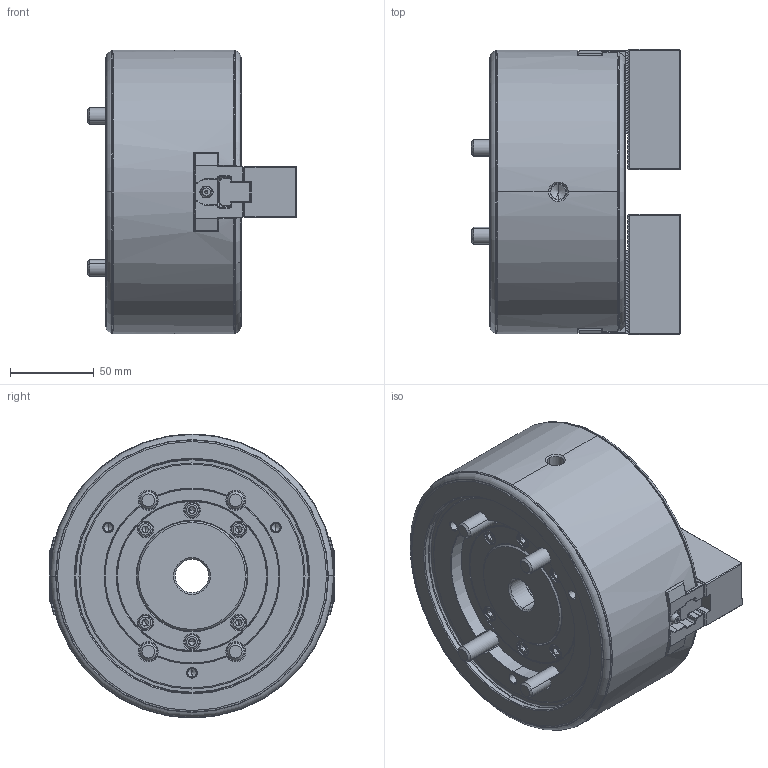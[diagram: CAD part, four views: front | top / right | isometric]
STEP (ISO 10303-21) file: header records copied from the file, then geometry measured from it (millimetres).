
FILE_DESCRIPTION (( 'STEP AP214' ), '1' );
FILE_NAME ('DEV-BRT06-HUL.STEP', '2024-10-02T05:11:39', ( '' ), ( '' ), 'SwSTEP 2.0', 'SolidWorks 2022', '' );
FILE_SCHEMA (( 'AUTOMOTIVE_DESIGN' ));
Length unit declared in the file: millimetre
Products named in the file (9): BRT06-61P314547-4(SJ06A1T) ソフトジョー_SJ06A1T-ﾃﾞﾌｫﾙﾄ-Design; 61P806148-0(BBT206) カバー_BBT206-ﾃﾞﾌｫﾙﾄ; Part8^DEV-BRT06-クミタテ; BRT06-Nishi07 ドローナット(ｸﾘｯｸｽﾄｯﾌﾟ穴変更)_ﾃﾞﾌｫﾙﾄ(外観用); Bアナツキボタン M5×10_デフォルト; BR06-Nishi08 Tナット-Plus_61P447483-改正2 BB206 Tﾅｯﾄ-分割; Bアナツキ M10×25; Bアナツキ M10×80; DEV-BRT06-HUL
Assembly tree (19 placements, depth 2):
  DEV-BRT06-HUL
    BRT06-Nishi07 ドローナット(ｸﾘｯｸｽﾄｯﾌﾟ穴変更)_ﾃﾞﾌｫﾙﾄ(外観用)
    BRT06-61P314547-4(SJ06A1T) ソフトジョー_SJ06A1T-ﾃﾞﾌｫﾙﾄ-Design  x2
    BR06-Nishi08 Tナット-Plus_61P447483-改正2 BB206 Tﾅｯﾄ-分割  x2
    61P806148-0(BBT206) カバー_BBT206-ﾃﾞﾌｫﾙﾄ
    Bアナツキ M10×25  x4
    Bアナツキボタン M5×10_デフォルト  x4
    Bアナツキ M10×80  x4
    Part8^DEV-BRT06-クミタテ
Bounding box: 125.2 x 170.9 x 170 mm (x, y, z)
Volume: 1659408.5 mm3; surface area: 222244.4 mm2
Topology: 19 solids, 29 shells, 2889 faces, 7677 edges, 4917 vertices
Faces by surface type: plane 1963, cylinder 413, cone 292, bspline 126, torus 87, sphere 8
Entity records: 75267 total; most frequent: CARTESIAN_POINT 18619, ORIENTED_EDGE 12042, DIRECTION 11048, EDGE_CURVE 6021, VECTOR 4394, LINE 4394, VERTEX_POINT 3896, AXIS2_PLACEMENT_3D 3327
